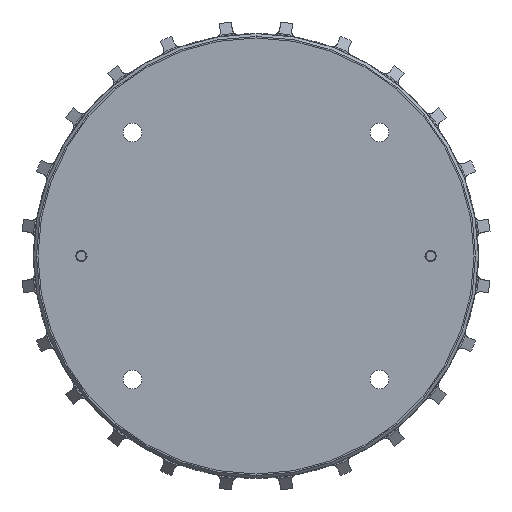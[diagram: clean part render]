
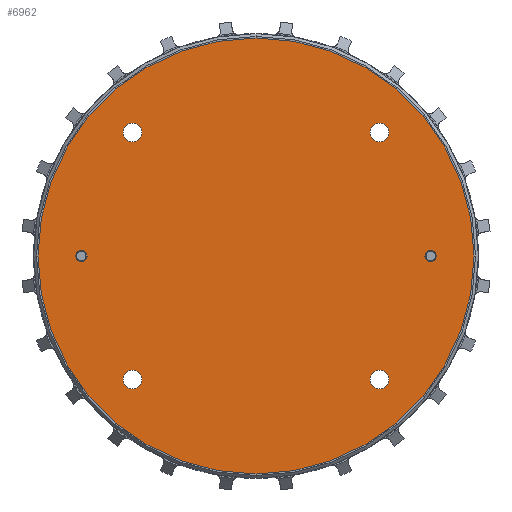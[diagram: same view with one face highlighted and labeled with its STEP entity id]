
A CAD part, front view. The second image highlights one B-rep face of the part: STEP entity #6962.
In plain terms, the highlighted planar face has unit normal (0, -1, 0).
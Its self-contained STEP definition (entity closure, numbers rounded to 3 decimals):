
#49 = DIRECTION ( 'NONE',  ( 0., 1., 0. ) ) ;
#230 = DIRECTION ( 'NONE',  ( 0., 0., 1. ) ) ;
#242 = DIRECTION ( 'NONE',  ( 0., 0., 1. ) ) ;
#268 = VERTEX_POINT ( 'NONE', #5599 ) ;
#326 = DIRECTION ( 'NONE',  ( 0., 0., 1. ) ) ;
#349 = DIRECTION ( 'NONE',  ( 0., 1., 0. ) ) ;
#376 = EDGE_LOOP ( 'NONE', ( #1547, #8018 ) ) ;
#398 = VERTEX_POINT ( 'NONE', #5859 ) ;
#483 = ORIENTED_EDGE ( 'NONE', *, *, #8227, .F. ) ;
#602 = CARTESIAN_POINT ( 'NONE',  ( -21.213, 58.35, -21.213 ) ) ;
#886 = DIRECTION ( 'NONE',  ( 0., 0., 1. ) ) ;
#1001 = CARTESIAN_POINT ( 'NONE',  ( 30., 58.35, 0.975 ) ) ;
#1044 = EDGE_CURVE ( 'NONE', #6671, #5771, #5524, .T. ) ;
#1115 = CARTESIAN_POINT ( 'NONE',  ( -21.213, 58.35, -21.213 ) ) ;
#1222 = AXIS2_PLACEMENT_3D ( 'NONE', #8022, #2863, #326 ) ;
#1256 = CIRCLE ( 'NONE', #7726, 37.444 ) ;
#1471 = DIRECTION ( 'NONE',  ( 0., -1., 0. ) ) ;
#1519 = CIRCLE ( 'NONE', #9255, 1.6 ) ;
#1547 = ORIENTED_EDGE ( 'NONE', *, *, #7043, .T. ) ;
#1590 = CARTESIAN_POINT ( 'NONE',  ( 0., 58.35, 0. ) ) ;
#1594 = DIRECTION ( 'NONE',  ( 0., 1., 0. ) ) ;
#1630 = CIRCLE ( 'NONE', #2689, 1.6 ) ;
#1726 = AXIS2_PLACEMENT_3D ( 'NONE', #2697, #4411, #230 ) ;
#1758 = AXIS2_PLACEMENT_3D ( 'NONE', #11054, #6037, #9452 ) ;
#1779 = DIRECTION ( 'NONE',  ( 0., 0., 1. ) ) ;
#1845 = CARTESIAN_POINT ( 'NONE',  ( 0., 58.35, 0. ) ) ;
#2326 = ORIENTED_EDGE ( 'NONE', *, *, #7721, .F. ) ;
#2539 = DIRECTION ( 'NONE',  ( 0., 1., 0. ) ) ;
#2689 = AXIS2_PLACEMENT_3D ( 'NONE', #5839, #1594, #5105 ) ;
#2697 = CARTESIAN_POINT ( 'NONE',  ( 30., 58.35, 0. ) ) ;
#2736 = EDGE_CURVE ( 'NONE', #6003, #8369, #11110, .T. ) ;
#2842 = FACE_BOUND ( 'NONE', #9758, .T. ) ;
#2863 = DIRECTION ( 'NONE',  ( 0., -1., 0. ) ) ;
#2889 = VERTEX_POINT ( 'NONE', #3347 ) ;
#2950 = CIRCLE ( 'NONE', #7050, 1.6 ) ;
#3177 = DIRECTION ( 'NONE',  ( 0., 0., 1. ) ) ;
#3224 = EDGE_CURVE ( 'NONE', #8697, #5159, #4329, .T. ) ;
#3347 = CARTESIAN_POINT ( 'NONE',  ( -21.213, 58.35, 22.813 ) ) ;
#3357 = CARTESIAN_POINT ( 'NONE',  ( 30., 58.35, -0.975 ) ) ;
#3413 = CARTESIAN_POINT ( 'NONE',  ( 21.213, 58.35, -21.213 ) ) ;
#3521 = ORIENTED_EDGE ( 'NONE', *, *, #7408, .F. ) ;
#3566 = DIRECTION ( 'NONE',  ( 0., 1., 0. ) ) ;
#3646 = AXIS2_PLACEMENT_3D ( 'NONE', #4848, #1471, #4918 ) ;
#4034 = CARTESIAN_POINT ( 'NONE',  ( 0., 58.35, 37.444 ) ) ;
#4038 = CARTESIAN_POINT ( 'NONE',  ( 21.213, 58.35, -22.813 ) ) ;
#4329 = CIRCLE ( 'NONE', #1726, 0.975 ) ;
#4331 = AXIS2_PLACEMENT_3D ( 'NONE', #8381, #9246, #6713 ) ;
#4411 = DIRECTION ( 'NONE',  ( 0., -1., 0. ) ) ;
#4463 = FACE_BOUND ( 'NONE', #8031, .T. ) ;
#4475 = DIRECTION ( 'NONE',  ( 0., 1., 0. ) ) ;
#4573 = CIRCLE ( 'NONE', #3646, 0.975 ) ;
#4614 = EDGE_LOOP ( 'NONE', ( #3521, #2326 ) ) ;
#4714 = EDGE_CURVE ( 'NONE', #5771, #6671, #1256, .T. ) ;
#4792 = EDGE_LOOP ( 'NONE', ( #7116, #9368 ) ) ;
#4803 = AXIS2_PLACEMENT_3D ( 'NONE', #3413, #49, #886 ) ;
#4848 = CARTESIAN_POINT ( 'NONE',  ( -30., 58.35, 0. ) ) ;
#4890 = ORIENTED_EDGE ( 'NONE', *, *, #5509, .T. ) ;
#4918 = DIRECTION ( 'NONE',  ( 0., 0., 1. ) ) ;
#4982 = CIRCLE ( 'NONE', #5084, 0.975 ) ;
#5084 = AXIS2_PLACEMENT_3D ( 'NONE', #5749, #5713, #5864 ) ;
#5105 = DIRECTION ( 'NONE',  ( 0., 0., 1. ) ) ;
#5147 = AXIS2_PLACEMENT_3D ( 'NONE', #6892, #2539, #1779 ) ;
#5159 = VERTEX_POINT ( 'NONE', #3357 ) ;
#5225 = CARTESIAN_POINT ( 'NONE',  ( -30., 58.35, 0.975 ) ) ;
#5289 = VERTEX_POINT ( 'NONE', #4038 ) ;
#5315 = DIRECTION ( 'NONE',  ( 0., 0., 1. ) ) ;
#5317 = DIRECTION ( 'NONE',  ( 0., 0., 1. ) ) ;
#5373 = ORIENTED_EDGE ( 'NONE', *, *, #6163, .T. ) ;
#5387 = CARTESIAN_POINT ( 'NONE',  ( 21.213, 58.35, 22.813 ) ) ;
#5509 = EDGE_CURVE ( 'NONE', #6491, #10151, #1630, .T. ) ;
#5524 = CIRCLE ( 'NONE', #8766, 37.444 ) ;
#5599 = CARTESIAN_POINT ( 'NONE',  ( 21.213, 58.35, -19.613 ) ) ;
#5678 = FACE_BOUND ( 'NONE', #10769, .T. ) ;
#5713 = DIRECTION ( 'NONE',  ( 0., -1., 0. ) ) ;
#5740 = AXIS2_PLACEMENT_3D ( 'NONE', #602, #7869, #10556 ) ;
#5749 = CARTESIAN_POINT ( 'NONE',  ( 30., 58.35, 0. ) ) ;
#5771 = VERTEX_POINT ( 'NONE', #9535 ) ;
#5839 = CARTESIAN_POINT ( 'NONE',  ( 21.213, 58.35, 21.213 ) ) ;
#5859 = CARTESIAN_POINT ( 'NONE',  ( -30., 58.35, -0.975 ) ) ;
#5864 = DIRECTION ( 'NONE',  ( 0., 0., 1. ) ) ;
#5937 = EDGE_CURVE ( 'NONE', #8180, #2889, #6890, .T. ) ;
#5968 = FACE_OUTER_BOUND ( 'NONE', #4792, .T. ) ;
#5987 = ORIENTED_EDGE ( 'NONE', *, *, #6441, .T. ) ;
#6003 = VERTEX_POINT ( 'NONE', #9540 ) ;
#6037 = DIRECTION ( 'NONE',  ( 0., 1., 0. ) ) ;
#6121 = EDGE_LOOP ( 'NONE', ( #4890, #5373 ) ) ;
#6163 = EDGE_CURVE ( 'NONE', #10151, #6491, #7541, .T. ) ;
#6282 = AXIS2_PLACEMENT_3D ( 'NONE', #1115, #349, #3177 ) ;
#6297 = CARTESIAN_POINT ( 'NONE',  ( -21.213, 58.35, 19.613 ) ) ;
#6306 = VERTEX_POINT ( 'NONE', #5225 ) ;
#6441 = EDGE_CURVE ( 'NONE', #5289, #268, #2950, .T. ) ;
#6491 = VERTEX_POINT ( 'NONE', #5387 ) ;
#6671 = VERTEX_POINT ( 'NONE', #4034 ) ;
#6713 = DIRECTION ( 'NONE',  ( 0., 0., 1. ) ) ;
#6890 = CIRCLE ( 'NONE', #5147, 1.6 ) ;
#6892 = CARTESIAN_POINT ( 'NONE',  ( -21.213, 58.35, 21.213 ) ) ;
#6962 = ADVANCED_FACE ( 'NONE', ( #7962, #4463, #8231, #5678, #2842, #7057, #5968 ), #10134, .F. ) ;
#7043 = EDGE_CURVE ( 'NONE', #2889, #8180, #1519, .T. ) ;
#7050 = AXIS2_PLACEMENT_3D ( 'NONE', #10421, #3566, #242 ) ;
#7057 = FACE_BOUND ( 'NONE', #6121, .T. ) ;
#7075 = ORIENTED_EDGE ( 'NONE', *, *, #3224, .F. ) ;
#7116 = ORIENTED_EDGE ( 'NONE', *, *, #1044, .F. ) ;
#7143 = DIRECTION ( 'NONE',  ( 0., 1., 0. ) ) ;
#7408 = EDGE_CURVE ( 'NONE', #6306, #398, #10799, .T. ) ;
#7541 = CIRCLE ( 'NONE', #4331, 1.6 ) ;
#7721 = EDGE_CURVE ( 'NONE', #398, #6306, #4573, .T. ) ;
#7726 = AXIS2_PLACEMENT_3D ( 'NONE', #1590, #9320, #11073 ) ;
#7760 = CIRCLE ( 'NONE', #5740, 1.6 ) ;
#7784 = ORIENTED_EDGE ( 'NONE', *, *, #2736, .T. ) ;
#7866 = ORIENTED_EDGE ( 'NONE', *, *, #9403, .T. ) ;
#7869 = DIRECTION ( 'NONE',  ( 0., 1., 0. ) ) ;
#7962 = FACE_BOUND ( 'NONE', #4614, .T. ) ;
#8018 = ORIENTED_EDGE ( 'NONE', *, *, #5937, .T. ) ;
#8022 = CARTESIAN_POINT ( 'NONE',  ( -30., 58.35, 0. ) ) ;
#8031 = EDGE_LOOP ( 'NONE', ( #7075, #483 ) ) ;
#8180 = VERTEX_POINT ( 'NONE', #6297 ) ;
#8227 = EDGE_CURVE ( 'NONE', #5159, #8697, #4982, .T. ) ;
#8231 = FACE_BOUND ( 'NONE', #376, .T. ) ;
#8369 = VERTEX_POINT ( 'NONE', #8513 ) ;
#8381 = CARTESIAN_POINT ( 'NONE',  ( 21.213, 58.35, 21.213 ) ) ;
#8513 = CARTESIAN_POINT ( 'NONE',  ( -21.213, 58.35, -19.613 ) ) ;
#8697 = VERTEX_POINT ( 'NONE', #1001 ) ;
#8766 = AXIS2_PLACEMENT_3D ( 'NONE', #1845, #7143, #5315 ) ;
#9246 = DIRECTION ( 'NONE',  ( 0., 1., 0. ) ) ;
#9255 = AXIS2_PLACEMENT_3D ( 'NONE', #10391, #4475, #5317 ) ;
#9320 = DIRECTION ( 'NONE',  ( 0., 1., 0. ) ) ;
#9368 = ORIENTED_EDGE ( 'NONE', *, *, #4714, .F. ) ;
#9403 = EDGE_CURVE ( 'NONE', #8369, #6003, #7760, .T. ) ;
#9452 = DIRECTION ( 'NONE',  ( 0., 0., 1. ) ) ;
#9535 = CARTESIAN_POINT ( 'NONE',  ( 0., 58.35, -37.444 ) ) ;
#9540 = CARTESIAN_POINT ( 'NONE',  ( -21.213, 58.35, -22.813 ) ) ;
#9635 = EDGE_CURVE ( 'NONE', #268, #5289, #11130, .T. ) ;
#9758 = EDGE_LOOP ( 'NONE', ( #10067, #5987 ) ) ;
#10067 = ORIENTED_EDGE ( 'NONE', *, *, #9635, .T. ) ;
#10134 = PLANE ( 'NONE',  #1758 ) ;
#10151 = VERTEX_POINT ( 'NONE', #10260 ) ;
#10260 = CARTESIAN_POINT ( 'NONE',  ( 21.213, 58.35, 19.613 ) ) ;
#10391 = CARTESIAN_POINT ( 'NONE',  ( -21.213, 58.35, 21.213 ) ) ;
#10421 = CARTESIAN_POINT ( 'NONE',  ( 21.213, 58.35, -21.213 ) ) ;
#10556 = DIRECTION ( 'NONE',  ( 0., 0., 1. ) ) ;
#10769 = EDGE_LOOP ( 'NONE', ( #7866, #7784 ) ) ;
#10799 = CIRCLE ( 'NONE', #1222, 0.975 ) ;
#11054 = CARTESIAN_POINT ( 'NONE',  ( 0., 58.35, -37.444 ) ) ;
#11073 = DIRECTION ( 'NONE',  ( 0., 0., 1. ) ) ;
#11110 = CIRCLE ( 'NONE', #6282, 1.6 ) ;
#11130 = CIRCLE ( 'NONE', #4803, 1.6 ) ;
